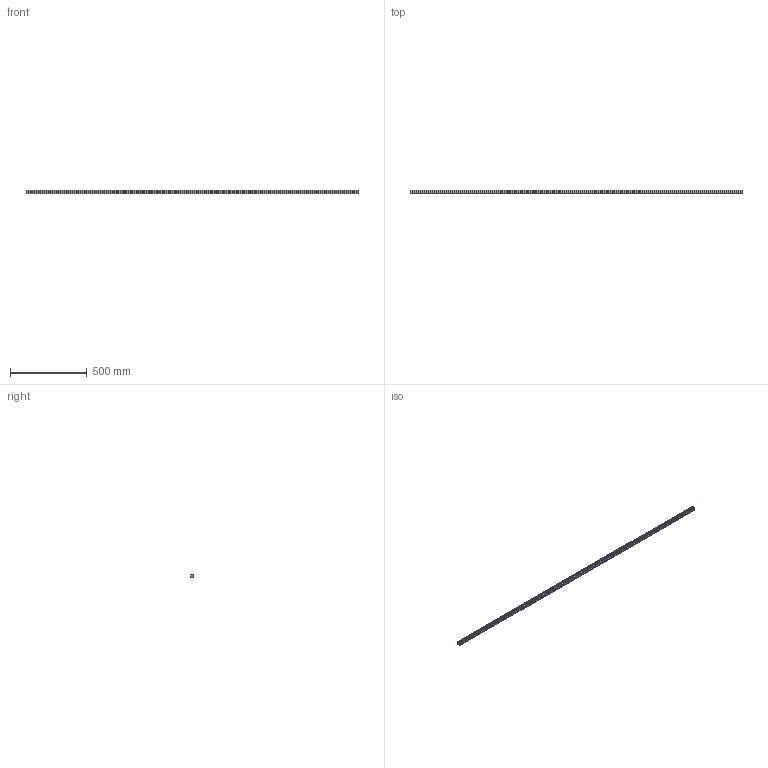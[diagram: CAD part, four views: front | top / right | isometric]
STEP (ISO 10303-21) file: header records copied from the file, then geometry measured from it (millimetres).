
FILE_DESCRIPTION (( 'STEP AP203' ), '1' );
FILE_NAME ('L1018.25R-2160.step', '2023-08-06T10:40:44', ( '' ), ( '' ), 'SwSTEP 2.0', 'SolidWorks 2019', '' );
FILE_SCHEMA (( 'CONFIG_CONTROL_DESIGN' ));
Length unit declared in the file: millimetre
Products named in the file (1): L1018.25R-2160
Bounding box: 2160 x 21.8 x 25 mm (x, y, z)
Volume: 898318.3 mm3; surface area: 215333.1 mm2
Topology: 1 solids, 1 shells, 353 faces, 801 edges, 450 vertices
Faces by surface type: cylinder 147, cone 144, plane 62
Entity records: 9422 total; most frequent: DIRECTION 1803, CARTESIAN_POINT 1533, ORIENTED_EDGE 1458, EDGE_CURVE 729, AXIS2_PLACEMENT_3D 720, VERTEX_POINT 450, EDGE_LOOP 425, CIRCLE 366
